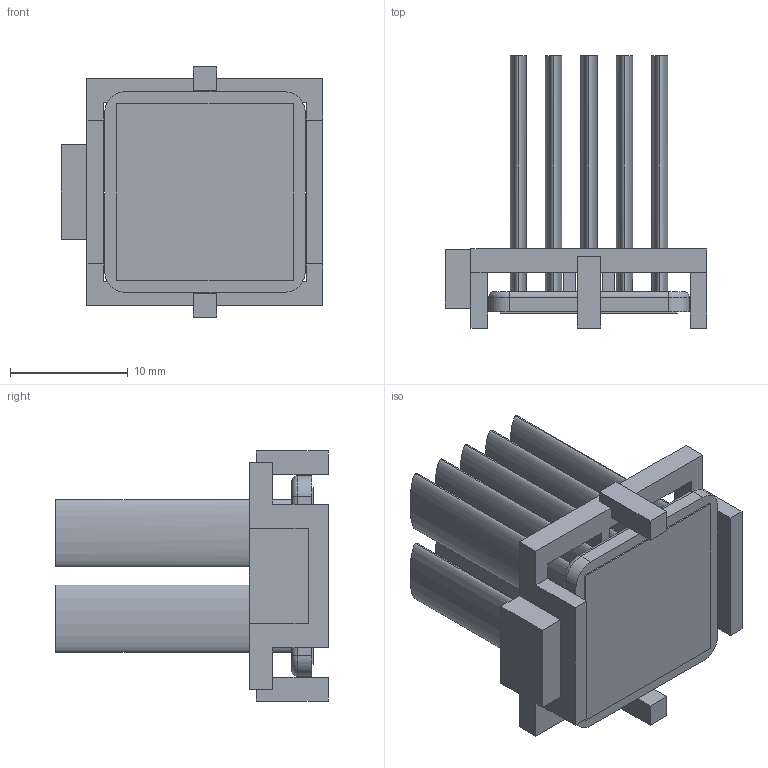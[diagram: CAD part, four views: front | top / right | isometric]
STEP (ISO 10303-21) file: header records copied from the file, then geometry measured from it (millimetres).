
FILE_DESCRIPTION (( 'STEP AP214' ), '1' );
FILE_NAME ('INM17001-22W-1.7BU.STEP', '2023-03-01T23:07:49', ( '' ), ( '' ), 'SwSTEP 2.0', 'SolidWorks 2020', '' );
FILE_SCHEMA (( 'AUTOMOTIVE_DESIGN' ));
Length unit declared in the file: millimetre
Products named in the file (1): INM17001-22W-1.7BU
Bounding box: 22.2 x 23.1 x 21.2 mm (x, y, z)
Volume: 2337.3 mm3; surface area: 4608.5 mm2
Topology: 3 solids, 3 shells, 99 faces, 244 edges, 160 vertices
Faces by surface type: plane 67, bspline 20, cylinder 8, torus 4
Entity records: 4079 total; most frequent: CARTESIAN_POINT 764, ORIENTED_EDGE 488, DIRECTION 384, EDGE_CURVE 244, VECTOR 184, LINE 184, VERTEX_POINT 160, EDGE_LOOP 110
